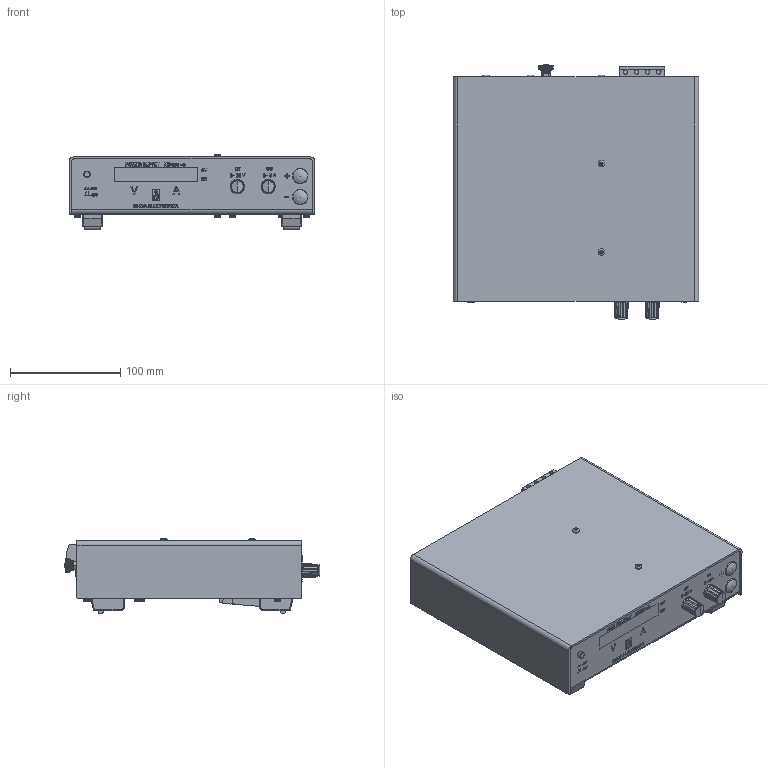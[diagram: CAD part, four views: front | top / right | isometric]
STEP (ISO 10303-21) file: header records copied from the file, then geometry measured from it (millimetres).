
FILE_DESCRIPTION(/* description */ (''),/* implementation_level */ '2;1');
FILE_NAME(/* name */ 'A:\Data\ES150\option\P120-P121\step file\assembly ES150-P120.stp',/* time_stamp */ '2021-02-08T16:29:47+01:00',/* author */ ('Delta'),/* organization */ (''),/* preprocessor_version */ 'ST-DEVELOPER v17.2',/* originating_system */ 'Autodesk Inventor 2019',/* authorisation */ '');
FILE_SCHEMA (('AUTOMOTIVE_DESIGN { 1 0 10303 214 3 1 1 }'));
Products named in the file (1): assembly ES150-P120_Shrinkwrap_1
Bounding box: 222 x 231.2 x 68.2 mm (x, y, z)
Volume: 2324828.6 mm3; surface area: 161935.6 mm2
Topology: 1 solids, 1 shells, 3339 faces, 7929 edges, 5077 vertices
Faces by surface type: plane 1810, cylinder 695, bspline 428, cone 250, torus 88, sphere 68
Full cylindrical faces by diameter (mm): 1.1 x15, 2.156 x2, 3.5 x344, 3.9 x4, 4 x2, 4.5 x2, 4.75 x4, 5 x1, 5.8 x1, 6 x27, 6.2 x2, 7.8 x2, 8 x4, 8.3 x2, 8.8 x2, 9 x2, 10 x2, 10.5 x1, 10.7 x2
Entity records: 105794 total; most frequent: CARTESIAN_POINT 28034, ORIENTED_EDGE 15810, DIRECTION 14708, EDGE_CURVE 7905, AXIS2_PLACEMENT_3D 5286, VERTEX_POINT 5079, LINE 4136, VECTOR 4136
